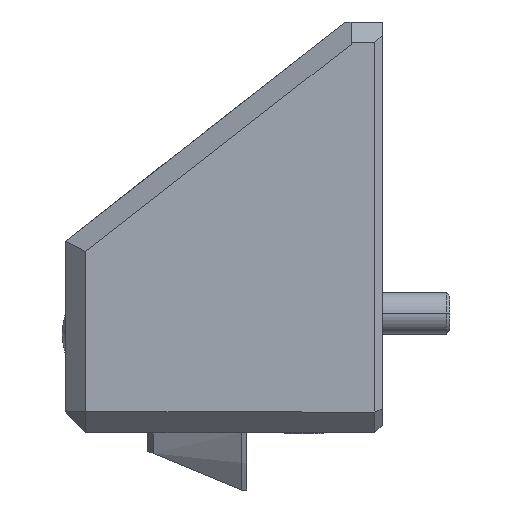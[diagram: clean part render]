
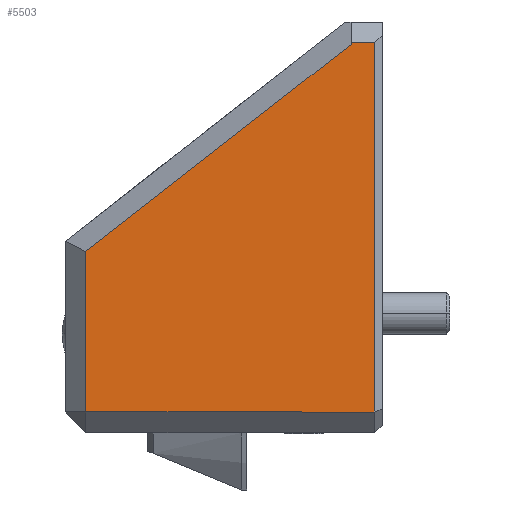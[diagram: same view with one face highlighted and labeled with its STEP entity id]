
A CAD part, left-side view. The second image highlights one B-rep face of the part: STEP entity #5503.
In plain terms, the highlighted planar face has unit normal (-1, 0, 0).
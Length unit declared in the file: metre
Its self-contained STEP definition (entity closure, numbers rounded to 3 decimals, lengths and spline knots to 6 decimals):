
#170 = VERTEX_POINT ( 'NONE', #6859 ) ;
#944 = CARTESIAN_POINT ( 'NONE',  ( 0., 0.051, 0.079 ) ) ;
#1230 = DIRECTION ( 'NONE',  ( 0., -1., 0. ) ) ;
#1288 = LINE ( 'NONE', #944, #4652 ) ;
#1325 = CARTESIAN_POINT ( 'NONE',  ( 0., 0., 0.074705 ) ) ;
#1496 = PLANE ( 'NONE',  #2804 ) ;
#1529 = DIRECTION ( 'NONE',  ( 0., 0., 1. ) ) ;
#1628 = DIRECTION ( 'NONE',  ( 0., 0., -1. ) ) ;
#1677 = VERTEX_POINT ( 'NONE', #8344 ) ;
#1714 = DIRECTION ( 'NONE',  ( 0., 1., 0. ) ) ;
#1722 = ORIENTED_EDGE ( 'NONE', *, *, #7573, .T. ) ;
#1732 = EDGE_CURVE ( 'NONE', #8075, #170, #3968, .T. ) ;
#1738 = LINE ( 'NONE', #3157, #5306 ) ;
#1844 = DIRECTION ( 'NONE',  ( 0., 0.788, -0.616 ) ) ;
#1847 = EDGE_CURVE ( 'NONE', #170, #7666, #1738, .T. ) ;
#2012 = VECTOR ( 'NONE', #1230, 1. ) ;
#2157 = DIRECTION ( 'NONE',  ( 1., 0., 0. ) ) ;
#2159 = CARTESIAN_POINT ( 'NONE',  ( 0., -0.0045, 0.004 ) ) ;
#2163 = VECTOR ( 'NONE', #1714, 1. ) ;
#2253 = CARTESIAN_POINT ( 'NONE',  ( 0., -0.0045, 0.004 ) ) ;
#2363 = CARTESIAN_POINT ( 'NONE',  ( 0., -0.006, 0.075 ) ) ;
#2543 = CARTESIAN_POINT ( 'NONE',  ( 0., -0.0045, 0.075 ) ) ;
#2804 = AXIS2_PLACEMENT_3D ( 'NONE', #6200, #2157, #6855 ) ;
#3138 = EDGE_LOOP ( 'NONE', ( #1722, #4542, #5237, #3685, #6786, #5255 ) ) ;
#3157 = CARTESIAN_POINT ( 'NONE',  ( 0., 0., 0.004 ) ) ;
#3685 = ORIENTED_EDGE ( 'NONE', *, *, #1847, .T. ) ;
#3811 = LINE ( 'NONE', #7896, #2012 ) ;
#3968 = LINE ( 'NONE', #2363, #2163 ) ;
#4224 = VECTOR ( 'NONE', #1844, 1. ) ;
#4542 = ORIENTED_EDGE ( 'NONE', *, *, #7249, .T. ) ;
#4652 = VECTOR ( 'NONE', #1628, 1. ) ;
#4663 = VERTEX_POINT ( 'NONE', #6588 ) ;
#4761 = LINE ( 'NONE', #2159, #7917 ) ;
#4769 = FACE_OUTER_BOUND ( 'NONE', #3138, .T. ) ;
#5237 = ORIENTED_EDGE ( 'NONE', *, *, #1732, .T. ) ;
#5255 = ORIENTED_EDGE ( 'NONE', *, *, #7938, .T. ) ;
#5306 = VECTOR ( 'NONE', #7888, 1. ) ;
#5503 = ADVANCED_FACE ( 'NONE', ( #4769 ), #1496, .F. ) ;
#5588 = VERTEX_POINT ( 'NONE', #2253 ) ;
#5874 = CARTESIAN_POINT ( 'NONE',  ( 0., -0.002084, 0.076333 ) ) ;
#6200 = CARTESIAN_POINT ( 'NONE',  ( 0., 0., 0.079 ) ) ;
#6588 = CARTESIAN_POINT ( 'NONE',  ( 0., 0.051, 0.03486 ) ) ;
#6786 = ORIENTED_EDGE ( 'NONE', *, *, #7513, .T. ) ;
#6855 = DIRECTION ( 'NONE',  ( 0., 0., -1. ) ) ;
#6859 = CARTESIAN_POINT ( 'NONE',  ( 0., 0., 0.075 ) ) ;
#7249 = EDGE_CURVE ( 'NONE', #5588, #8075, #4761, .T. ) ;
#7513 = EDGE_CURVE ( 'NONE', #7666, #4663, #7575, .T. ) ;
#7573 = EDGE_CURVE ( 'NONE', #1677, #5588, #3811, .T. ) ;
#7575 = LINE ( 'NONE', #5874, #4224 ) ;
#7666 = VERTEX_POINT ( 'NONE', #1325 ) ;
#7888 = DIRECTION ( 'NONE',  ( 0., 0., -1. ) ) ;
#7896 = CARTESIAN_POINT ( 'NONE',  ( 0., 0., 0.004 ) ) ;
#7917 = VECTOR ( 'NONE', #1529, 1. ) ;
#7938 = EDGE_CURVE ( 'NONE', #4663, #1677, #1288, .T. ) ;
#8075 = VERTEX_POINT ( 'NONE', #2543 ) ;
#8344 = CARTESIAN_POINT ( 'NONE',  ( 0., 0.051, 0.004 ) ) ;
